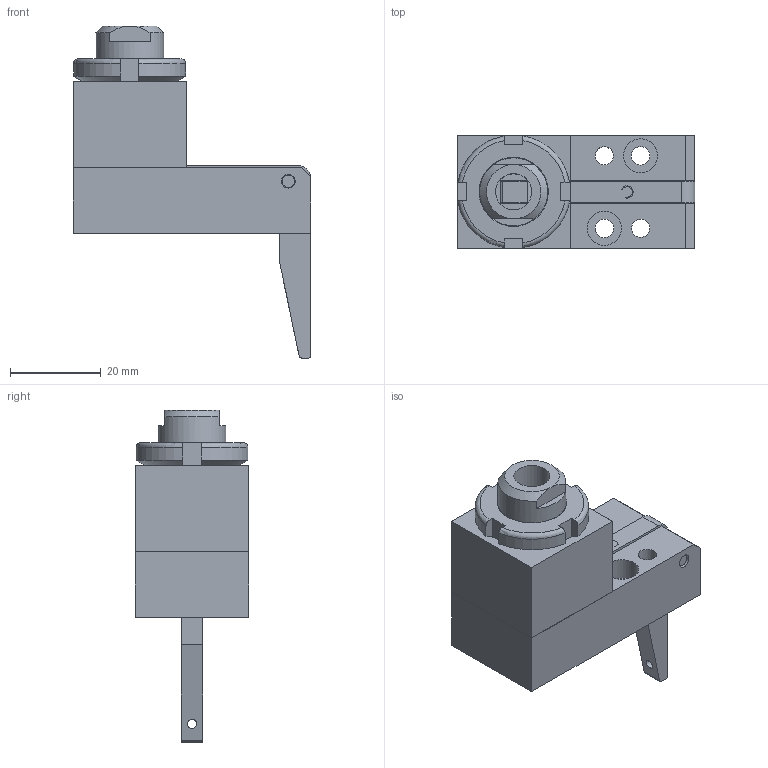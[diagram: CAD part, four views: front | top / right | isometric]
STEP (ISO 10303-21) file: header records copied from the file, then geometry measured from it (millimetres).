
FILE_DESCRIPTION(/* description */ ('','CAx-IF Rec.Pracs.---Representation and Presentation of Product Manufacturing Information (PMI)---3.8---2014-02-18'),/* implementation_level */ '2;1');
FILE_NAME(/* name */ 'E:\Users\CAD5\sito AP\scarica_file\3d\189_00.stp',/* time_stamp */ '2016-08-30T09:17:45+02:00',/* author */ ('CAD5'),/* organization */ (''),/* preprocessor_version */ 'ST-DEVELOPER v16.1',/* originating_system */ 'Autodesk Inventor 2016',/* authorisation */ '0 mm^3');
FILE_SCHEMA (('AP242_MANAGED_MODEL_BASED_3D_ENGINEERING_MIM_LF { 1 0 10303 442 1 1 4 }'));
Length unit declared in the file: millimetre
Products named in the file (9): 188.02; 03.56; Ghiera SKF M15x1 KM_2; ISO 2338 - 3  x 24 - A; UNI 5931 - M 4 x  16 - 0,7 - 13,9; D10320; 183.02; 188.01; 18x.00
Assembly tree (11 placements, depth 2):
  18x.00
    188.02
    03.56
    Ghiera SKF M15x1 KM_2
    ISO 2338 - 3  x 24 - A
    UNI 5931 - M 4 x  16 - 0,7 - 13,9  x4
    D10320
    183.02
    188.01
Bounding box: 52.5 x 25 x 73.25 mm (x, y, z)
Volume: 30284.3 mm3; surface area: 18446.2 mm2
Topology: 11 solids, 11 shells, 195 faces, 466 edges, 302 vertices
Faces by surface type: plane 100, cylinder 54, cone 23, torus 18
Full cylindrical faces by diameter (mm): 2.013 x1, 2.3 x1, 2.7 x1, 3 x6, 3.242 x4, 4 x6, 4.1 x6, 7 x4, 7.5 x6, 8 x1, 13.917 x1, 15 x2
Entity records: 4470 total; most frequent: CARTESIAN_POINT 914, DIRECTION 728, ORIENTED_EDGE 604, EDGE_CURVE 302, AXIS2_PLACEMENT_3D 294, EDGE_LOOP 240, VERTEX_POINT 226, FACE_OUTER_BOUND 150
